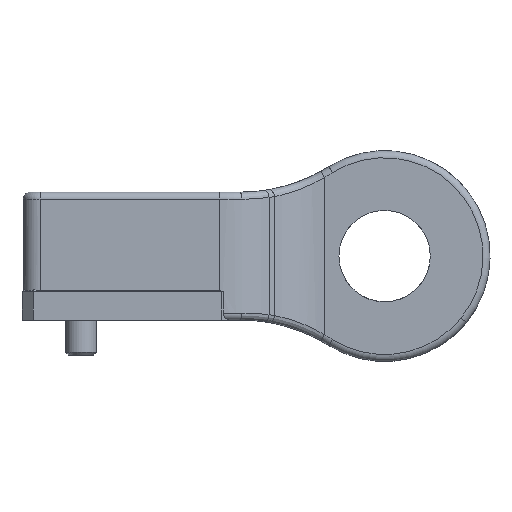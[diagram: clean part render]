
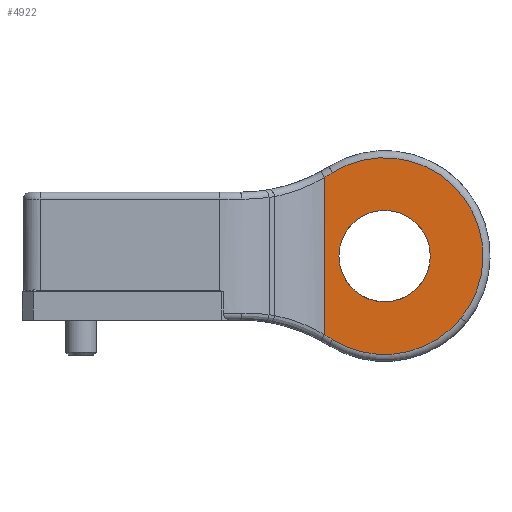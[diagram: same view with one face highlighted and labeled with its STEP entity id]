
A CAD part, left-side view. The second image highlights one B-rep face of the part: STEP entity #4922.
In plain terms, the highlighted planar face has unit normal (-1, 0, 0).
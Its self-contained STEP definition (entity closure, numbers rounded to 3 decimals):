
#3140=CARTESIAN_POINT('Vertex',(-110.,37.019,-59.41)) ;
#3143=CARTESIAN_POINT('Axis2P3D Location',(-110.,103.125,-165.5)) ;
#3147=CARTESIAN_POINT('Vertex',(-110.,42.982,-55.92)) ;
#4850=CARTESIAN_POINT('Vertex',(-110.,-54.337,-44.13)) ;
#4855=CARTESIAN_POINT('Axis2P3D Location',(-110.,0.,0.)) ;
#4873=CARTESIAN_POINT('Axis2P3D Location',(-110.,-310.,0.)) ;
#4878=CARTESIAN_POINT('Axis2P3D Location',(-110.,0.,0.)) ;
#4882=CARTESIAN_POINT('Vertex',(-110.,37.019,59.41)) ;
#4885=CARTESIAN_POINT('Axis2P3D Location',(-110.,103.125,165.5)) ;
#4889=CARTESIAN_POINT('Vertex',(-110.,42.982,55.92)) ;
#4892=CARTESIAN_POINT('Line Origine',(-110.,42.982,0.)) ;
#4904=CARTESIAN_POINT('Axis2P3D Location',(-110.,0.,0.)) ;
#4908=CARTESIAN_POINT('Vertex',(-110.,32.5,0.)) ;
#4910=CARTESIAN_POINT('Vertex',(-110.,-32.5,0.)) ;
#4913=CARTESIAN_POINT('Axis2P3D Location',(-110.,0.,0.)) ;
#3144=DIRECTION('Axis2P3D Direction',(1.,0.,0.)) ;
#4856=DIRECTION('Axis2P3D Direction',(1.,0.,0.)) ;
#4874=DIRECTION('Axis2P3D Direction',(1.,-0.,0.)) ;
#4875=DIRECTION('Axis2P3D XDirection',(0.,1.,0.)) ;
#4879=DIRECTION('Axis2P3D Direction',(1.,-0.,0.)) ;
#4886=DIRECTION('Axis2P3D Direction',(1.,-0.,0.)) ;
#4893=DIRECTION('Vector Direction',(0.,0.,1.)) ;
#4905=DIRECTION('Axis2P3D Direction',(1.,-0.,0.)) ;
#4914=DIRECTION('Axis2P3D Direction',(1.,-0.,0.)) ;
#3145=AXIS2_PLACEMENT_3D('Circle Axis2P3D',#3143,#3144,$) ;
#4857=AXIS2_PLACEMENT_3D('Circle Axis2P3D',#4855,#4856,$) ;
#4876=AXIS2_PLACEMENT_3D('Plane Axis2P3D',#4873,#4874,#4875) ;
#4880=AXIS2_PLACEMENT_3D('Circle Axis2P3D',#4878,#4879,$) ;
#4887=AXIS2_PLACEMENT_3D('Circle Axis2P3D',#4885,#4886,$) ;
#4906=AXIS2_PLACEMENT_3D('Circle Axis2P3D',#4904,#4905,$) ;
#4915=AXIS2_PLACEMENT_3D('Circle Axis2P3D',#4913,#4914,$) ;
#4898=ORIENTED_EDGE('',*,*,#3149,.F.) ;
#4899=ORIENTED_EDGE('',*,*,#4859,.F.) ;
#4900=ORIENTED_EDGE('',*,*,#4884,.F.) ;
#4901=ORIENTED_EDGE('',*,*,#4891,.F.) ;
#4902=ORIENTED_EDGE('',*,*,#4896,.T.) ;
#4919=ORIENTED_EDGE('',*,*,#4912,.T.) ;
#4920=ORIENTED_EDGE('',*,*,#4917,.T.) ;
#4921=FACE_BOUND('',#4918,.T.) ;
#4894=VECTOR('Line Direction',#4893,1.) ;
#4922=ADVANCED_FACE('PartBody',(#4903,#4921),#4877,.F.) ;
#3146=CIRCLE('generated circle',#3145,125.) ;
#4858=CIRCLE('generated circle',#4857,70.) ;
#4881=CIRCLE('generated circle',#4880,70.) ;
#4888=CIRCLE('generated circle',#4887,125.) ;
#4907=CIRCLE('generated circle',#4906,32.5) ;
#4916=CIRCLE('generated circle',#4915,32.5) ;
#3149=EDGE_CURVE('',#3141,#3148,#3146,.F.) ;
#4859=EDGE_CURVE('',#4851,#3141,#4858,.T.) ;
#4884=EDGE_CURVE('',#4883,#4851,#4881,.T.) ;
#4891=EDGE_CURVE('',#4890,#4883,#4888,.F.) ;
#4896=EDGE_CURVE('',#4890,#3148,#4895,.F.) ;
#4912=EDGE_CURVE('',#4909,#4911,#4907,.T.) ;
#4917=EDGE_CURVE('',#4911,#4909,#4916,.T.) ;
#4897=EDGE_LOOP('',(#4898,#4899,#4900,#4901,#4902)) ;
#4918=EDGE_LOOP('',(#4919,#4920)) ;
#4903=FACE_OUTER_BOUND('',#4897,.T.) ;
#4895=LINE('Line',#4892,#4894) ;
#4877=PLANE('Plane',#4876) ;
#3141=VERTEX_POINT('',#3140) ;
#3148=VERTEX_POINT('',#3147) ;
#4851=VERTEX_POINT('',#4850) ;
#4883=VERTEX_POINT('',#4882) ;
#4890=VERTEX_POINT('',#4889) ;
#4909=VERTEX_POINT('',#4908) ;
#4911=VERTEX_POINT('',#4910) ;
